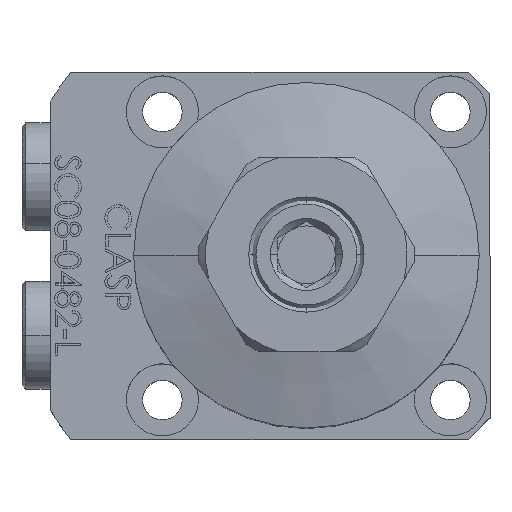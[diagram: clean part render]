
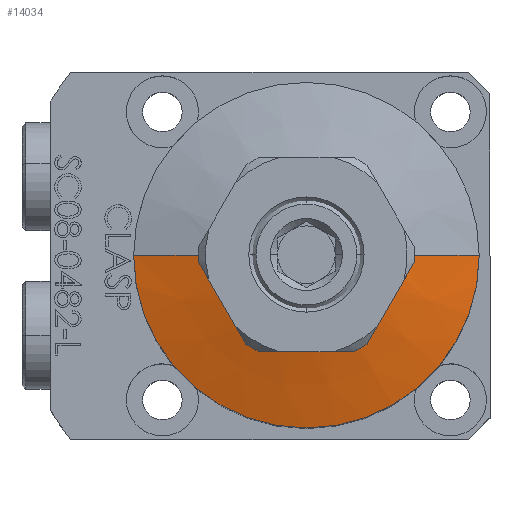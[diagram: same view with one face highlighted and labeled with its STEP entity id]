
A CAD part, top view. The second image highlights one B-rep face of the part: STEP entity #14034.
In plain terms, the highlighted conical face has half-angle 75 degrees and reference radius 60 mm.
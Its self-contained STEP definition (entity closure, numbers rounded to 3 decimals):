
#1080 = LINE ( 'NONE', #2766, #4761 ) ;
#1251 = DIRECTION ( 'NONE',  ( -0.966, 0., -0.259 ) ) ;
#2087 = ORIENTED_EDGE ( 'NONE', *, *, #17590, .T. ) ;
#2766 = CARTESIAN_POINT ( 'NONE',  ( 60., 0., 67.272 ) ) ;
#2775 = CIRCLE ( 'NONE', #11584, 12.5 ) ;
#3125 = DIRECTION ( 'NONE',  ( 0., 0., -1. ) ) ;
#4024 = CARTESIAN_POINT ( 'NONE',  ( 12.5, 0., 80. ) ) ;
#4157 = DIRECTION ( 'NONE',  ( 0., 0., 1. ) ) ;
#4584 = CARTESIAN_POINT ( 'NONE',  ( -12.5, 0., 80. ) ) ;
#4761 = VECTOR ( 'NONE', #11085, 1000. ) ;
#5186 = VERTEX_POINT ( 'NONE', #4584 ) ;
#5877 = AXIS2_PLACEMENT_3D ( 'NONE', #15165, #6783, #16595 ) ;
#5891 = CARTESIAN_POINT ( 'NONE',  ( 24., 0., 76.919 ) ) ;
#6009 = CIRCLE ( 'NONE', #5877, 24. ) ;
#6032 = DIRECTION ( 'NONE',  ( -1., 0., 0. ) ) ;
#6546 = ORIENTED_EDGE ( 'NONE', *, *, #14286, .F. ) ;
#6629 = VECTOR ( 'NONE', #1251, 1000. ) ;
#6636 = CARTESIAN_POINT ( 'NONE',  ( -24., 0., 76.919 ) ) ;
#6783 = DIRECTION ( 'NONE',  ( 0., 0., 1. ) ) ;
#7107 = VERTEX_POINT ( 'NONE', #5891 ) ;
#8825 = CARTESIAN_POINT ( 'NONE',  ( 0., 0., 67.272 ) ) ;
#10159 = AXIS2_PLACEMENT_3D ( 'NONE', #8825, #3125, #6032 ) ;
#10190 = CONICAL_SURFACE ( 'NONE', #10159, 60., 1.309 ) ;
#10191 = VERTEX_POINT ( 'NONE', #6636 ) ;
#10983 = ORIENTED_EDGE ( 'NONE', *, *, #12932, .T. ) ;
#11071 = FACE_OUTER_BOUND ( 'NONE', #11753, .T. ) ;
#11085 = DIRECTION ( 'NONE',  ( 0.966, 0., -0.259 ) ) ;
#11439 = ORIENTED_EDGE ( 'NONE', *, *, #16120, .F. ) ;
#11584 = AXIS2_PLACEMENT_3D ( 'NONE', #12466, #4157, #13880 ) ;
#11753 = EDGE_LOOP ( 'NONE', ( #6546, #11439, #10983, #2087 ) ) ;
#12466 = CARTESIAN_POINT ( 'NONE',  ( 0., 0., 80. ) ) ;
#12932 = EDGE_CURVE ( 'NONE', #5186, #10191, #17817, .T. ) ;
#13480 = VERTEX_POINT ( 'NONE', #4024 ) ;
#13880 = DIRECTION ( 'NONE',  ( 1., 0., 0. ) ) ;
#14034 = ADVANCED_FACE ( 'NONE', ( #11071 ), #10190, .T. ) ;
#14286 = EDGE_CURVE ( 'NONE', #13480, #7107, #1080, .T. ) ;
#15133 = CARTESIAN_POINT ( 'NONE',  ( -60., 0., 67.272 ) ) ;
#15165 = CARTESIAN_POINT ( 'NONE',  ( 0., 0., 76.919 ) ) ;
#16120 = EDGE_CURVE ( 'NONE', #5186, #13480, #2775, .T. ) ;
#16595 = DIRECTION ( 'NONE',  ( -1., 0., 0. ) ) ;
#17590 = EDGE_CURVE ( 'NONE', #10191, #7107, #6009, .T. ) ;
#17817 = LINE ( 'NONE', #15133, #6629 ) ;
